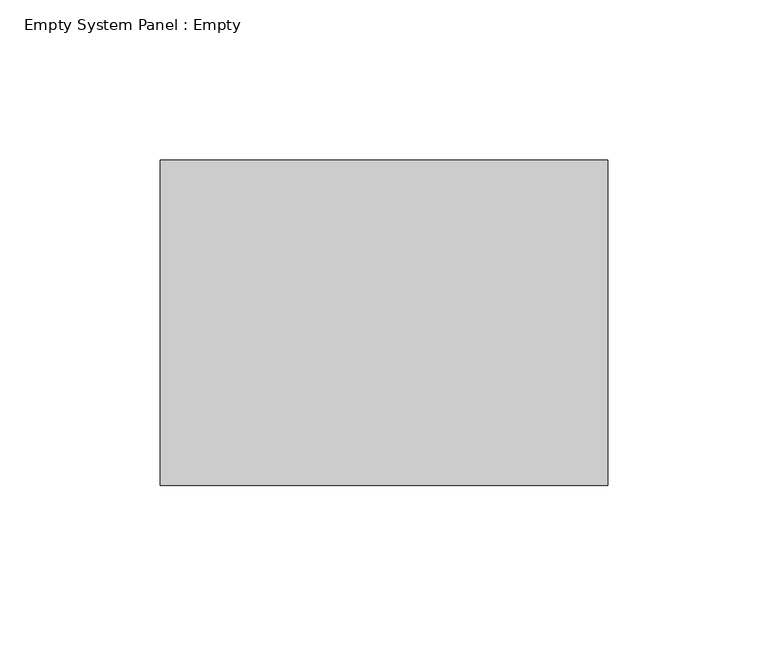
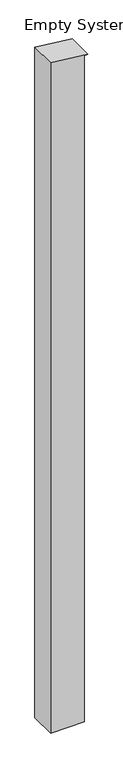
"""IFC4 building model written with IfcOpenShell, lengths in millimetres: plate geometry, Empty System Panel : Empty."""

from ifc_helpers import new_model, si_unit, frame, origin, place, context, project, spatial, polyline, outline, extrude, source, transform, mapped, element, save


def empty_system_panel_empty_f18835df(model_context):
    return source(origin(), model_context, "Body", "SweptSolid", [
        extrude(outline(polyline([(0.0, -69.85), (0.0, 57.15), (2639.0827193, 57.15), (2639.0827193, 69.85), (2654.7079093, -69.85), (0.0, -69.85)])), frame((0.0, -50.8, 0.0), z_axis=(0.0, 1.0, 0.0), x_axis=(0.0, 0.0, 1.0)), (0.0, 0.0, 1.0), 101.6),
    ])


if __name__ == "__main__":
    model = new_model("IFC4")
    model_context = context("Model", 3, world=origin())
    ifc_project = project(units=[si_unit("LENGTHUNIT", "METRE", prefix="MILLI")], contexts=[model_context])
    site = spatial("IfcSite", under=ifc_project)
    building = spatial("IfcBuilding", under=site)
    placement = place(None, origin())
    empty_system_panel_empty_shape = empty_system_panel_empty_f18835df(model_context)
    element("IfcPlate", 1, ObjectType="Empty System Panel : Empty", at=placement, inside=building, context=model_context, shape_type="MappedRepresentation", body=[
        mapped(empty_system_panel_empty_shape, transform((0.0, 0.0, 0.0), x_axis=(1.0, 0.0, 0.0), y_axis=(0.0, 1.0, 0.0), z_axis=(0.0, 0.0, 1.0))),
    ])
    save(model, "model.ifc")
